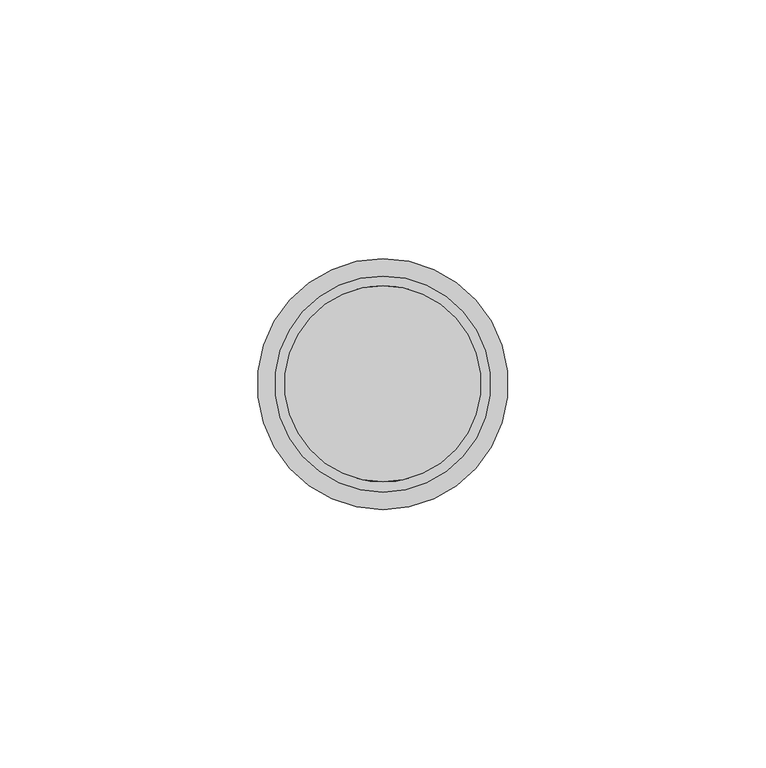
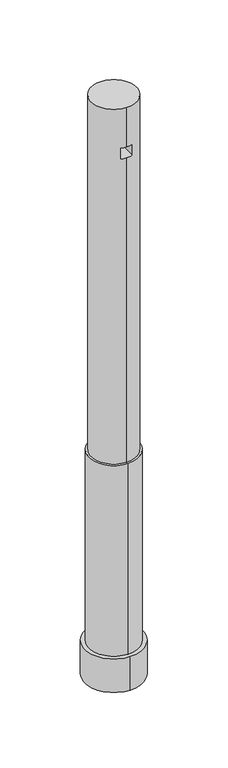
"""IFC4 building model written with IfcOpenShell, lengths in millimetres: proxy geometry, AK_アルバトロスＡＫアウトリガー : AK_アルバトロスＡＫアウトリガー."""

from ifc_helpers import new_model, si_unit, point, frame, frame_2d, origin, origin_with_axes, place, context, project, spatial, circle_curve, trimmed, segment, composite_curve, outline, extrude, source, transform, mapped, element, save
from ifc_brep_helpers import plane_surface, cylinder_surface, advanced_brep


def generic_models_9149ebec(model_context):
    return source(origin(), model_context, "Body", "SolidModel", [
        advanced_brep(
        [(775.0, 19.0, 200.0), (775.0, -19.0, 200.0), (775.0, 19.0, 516.2142857), (775.0, -19.0, 516.2142857), (775.0, 19.0, 471.2142857), (780.0, 18.3303028, 471.2142857), (780.0, 18.3303028, 481.2142857), (775.0, 19.0, 481.2142857), (775.0, -19.0, 481.2142857), (780.0, -18.3303028, 481.2142857), (780.0, -18.3303028, 471.2142857), (775.0, -19.0, 471.2142857), (770.0, -18.3303028, 471.2142857), (770.0, -18.3303028, 481.2142857), (770.0, 18.3303028, 481.2142857), (770.0, 18.3303028, 471.2142857)],
        [
            (0, 1, circle_curve(frame((775.0, 0.0, 200.0), z_axis=(0.0, 0.0, -1.0), x_axis=(0.0, -1.0, 0.0)), 19.0)),
            (1, 0, circle_curve(frame((775.0, 0.0, 200.0), z_axis=(0.0, 0.0, -1.0), x_axis=(0.0, -1.0, 0.0)), 19.0)),
            (2, 3, circle_curve(frame((775.0, 0.0, 516.2142857), z_axis=(0.0, 0.0, 1.0), x_axis=(0.0, -1.0, 0.0)), 19.0)),
            (3, 2, circle_curve(frame((775.0, 0.0, 516.2142857), z_axis=(0.0, 0.0, 1.0), x_axis=(0.0, -1.0, 0.0)), 19.0)),
            (0, 4),
            (4, 5, circle_curve(frame((775.0, 0.0, 471.2142857), z_axis=(0.0, 0.0, -1.0), x_axis=(0.0, -1.0, 0.0)), 19.0)),
            (5, 6),
            (6, 7, circle_curve(frame((775.0, 0.0, 481.2142857), z_axis=(0.0, 0.0, 1.0), x_axis=(0.0, -1.0, 0.0)), 19.0)),
            (7, 2),
            (3, 8),
            (8, 9, circle_curve(frame((775.0, 0.0, 481.2142857), z_axis=(0.0, 0.0, 1.0), x_axis=(0.0, -1.0, 0.0)), 19.0)),
            (9, 10),
            (10, 11, circle_curve(frame((775.0, 0.0, 471.2142857), z_axis=(0.0, 0.0, -1.0), x_axis=(0.0, -1.0, 0.0)), 19.0)),
            (11, 1),
            (11, 12, circle_curve(frame((775.0, 0.0, 471.2142857), z_axis=(0.0, 0.0, -1.0), x_axis=(0.0, -1.0, 0.0)), 19.0)),
            (12, 13),
            (13, 8, circle_curve(frame((775.0, 0.0, 481.2142857), z_axis=(0.0, 0.0, 1.0), x_axis=(0.0, -1.0, 0.0)), 19.0)),
            (7, 14, circle_curve(frame((775.0, 0.0, 481.2142857), z_axis=(0.0, 0.0, 1.0), x_axis=(0.0, -1.0, 0.0)), 19.0)),
            (14, 15),
            (15, 4, circle_curve(frame((775.0, 0.0, 471.2142857), z_axis=(0.0, 0.0, -1.0), x_axis=(0.0, -1.0, 0.0)), 19.0)),
            (14, 13),
            (12, 15),
            (10, 5),
            (9, 6),
        ],
        [
            plane_surface(frame((775.0, -19.0, 200.0), z_axis=(0.0, 0.0, -1.0), x_axis=(-1.0, 0.0, 0.0))),
            plane_surface(frame((775.0, -19.0, 516.2142857), z_axis=(0.0, 0.0, 1.0), x_axis=(1.0, 0.0, 0.0))),
            cylinder_surface(frame((775.0, 0.0, 516.2142857), z_axis=(0.0, 0.0, -1.0), x_axis=(0.0, -1.0, 0.0)), 19.0),
            plane_surface(frame((770.0, -24.9382545, 481.2142857), z_axis=(1.0, 0.0, 0.0), x_axis=(0.0, 1.0, 0.0))),
            plane_surface(frame((770.0, -24.9382545, 471.2142857), z_axis=(0.0, 0.0, 1.0), x_axis=(0.0, 1.0, 0.0))),
            plane_surface(frame((780.0, -24.9382545, 471.2142857), z_axis=(-1.0, 0.0, 0.0), x_axis=(0.0, 1.0, 0.0))),
            plane_surface(frame((780.0, -24.9382545, 481.2142857), z_axis=(0.0, 0.0, -1.0), x_axis=(0.0, 1.0, 0.0))),
        ],
        [
            (0, [[1, 2]]),
            (1, [[3, 4]]),
            (2, [[-1, 5, 6, 7, 8, 9, -4, 10, 11, 12, 13, 14]]),
            (2, [[-2, -14, 15, 16, 17, -10, -3, -9, 18, 19, 20, -5]]),
            (3, [[21, -16, 22, -19]]),
            (4, [[-22, -15, -13, 23, -6, -20]]),
            (5, [[-23, -12, 24, -7]]),
            (6, [[-21, -18, -8, -24, -11, -17]]),
        ],
    ),
        extrude(outline(composite_curve([segment(trimmed(circle_curve(frame_2d((775.0, 0.0)), 20.9), [point((775.0, 20.9))], [point((775.0, -20.9))], False, "CARTESIAN"), True, "CONTINUOUS"), segment(trimmed(circle_curve(frame_2d((775.0, 0.0)), 20.9), [point((775.0, -20.9))], [point((775.0, 20.9))], False, "CARTESIAN"), True, "CONTINUOUS")], self_intersect=False)), frame((0.0, 0.0, 30.0), z_axis=(0.0, 0.0, 1.0), x_axis=(1.0, 0.0, 0.0)), (0.0, 0.0, 1.0), 170.0),
        extrude(outline(composite_curve([segment(trimmed(circle_curve(frame_2d((775.0, 0.0)), 24.3), [point((775.0, 24.3))], [point((775.0, -24.3))], False, "CARTESIAN"), True, "CONTINUOUS"), segment(trimmed(circle_curve(frame_2d((775.0, 0.0)), 24.3), [point((775.0, -24.3))], [point((775.0, 24.3))], False, "CARTESIAN"), True, "CONTINUOUS")], self_intersect=False)), origin_with_axes(), (0.0, 0.0, 1.0), 30.0),
    ])


if __name__ == "__main__":
    model = new_model("IFC4")
    model_context = context("Model", 3, world=origin())
    ifc_project = project(units=[si_unit("LENGTHUNIT", "METRE", prefix="MILLI")], contexts=[model_context])
    site = spatial("IfcSite", under=ifc_project)
    building = spatial("IfcBuilding", under=site)
    placement = place(None, origin())
    generic_models_shape = generic_models_9149ebec(model_context)
    element("IfcBuildingElementProxy", 1, Name="AK_アルバトロスＡＫアウトリガー : AK_アルバトロスＡＫアウトリガー", ObjectType="AK_アルバトロスＡＫアウトリガー : AK_アルバトロスＡＫアウトリガー", at=placement, inside=building, context=model_context, shape_type="MappedRepresentation", body=[
        mapped(generic_models_shape, transform((0.0, 0.0, 0.0), x_axis=(1.0, 0.0, 0.0), y_axis=(0.0, 1.0, 0.0), z_axis=(0.0, 0.0, 1.0))),
    ])
    save(model, "model.ifc")
